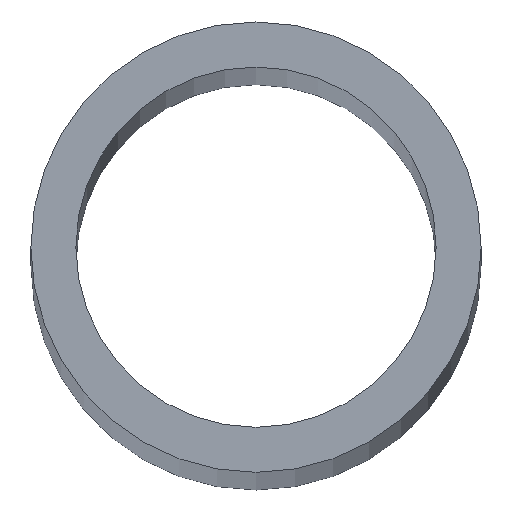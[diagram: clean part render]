
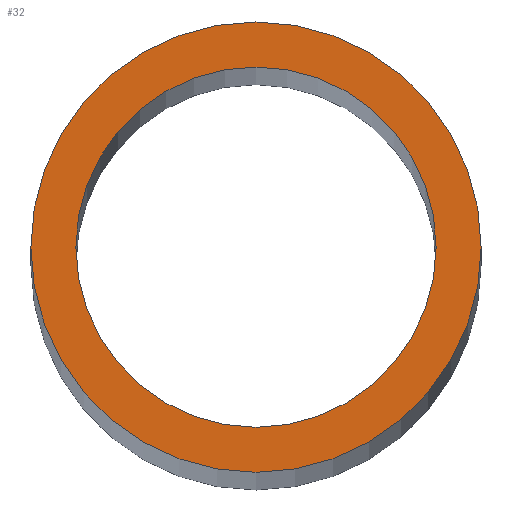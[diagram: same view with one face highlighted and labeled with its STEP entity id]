
A CAD part, top view. The second image highlights one B-rep face of the part: STEP entity #32.
In plain terms, the highlighted planar face has unit normal (0, 0, 1).
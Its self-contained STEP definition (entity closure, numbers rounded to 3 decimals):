
#32 = ADVANCED_FACE( '', ( #61, #62 ), #63, .F. );
#61 = FACE_BOUND( '', #84, .T. );
#62 = FACE_OUTER_BOUND( '', #85, .T. );
#63 = PLANE( '', #86 );
#84 = EDGE_LOOP( '', ( #105 ) );
#85 = EDGE_LOOP( '', ( #106 ) );
#86 = AXIS2_PLACEMENT_3D( '', #107, #108, #109 );
#105 = ORIENTED_EDGE( '', *, *, #120, .T. );
#106 = ORIENTED_EDGE( '', *, *, #122, .F. );
#107 = CARTESIAN_POINT( '', ( 0., 0., 450. ) );
#108 = DIRECTION( '', ( 0., 0., -1. ) );
#109 = DIRECTION( '', ( -1., 0., 0. ) );
#120 = EDGE_CURVE( '', #130, #130, #131, .T. );
#122 = EDGE_CURVE( '', #133, #133, #134, .T. );
#130 = VERTEX_POINT( '', #142 );
#131 = CIRCLE( '', #143, 8. );
#133 = VERTEX_POINT( '', #145 );
#134 = CIRCLE( '', #146, 10. );
#142 = CARTESIAN_POINT( '', ( 8., 0., 450. ) );
#143 = AXIS2_PLACEMENT_3D( '', #154, #155, #156 );
#145 = CARTESIAN_POINT( '', ( 10., 0., 450. ) );
#146 = AXIS2_PLACEMENT_3D( '', #157, #158, #159 );
#154 = CARTESIAN_POINT( '', ( 0., 0., 450. ) );
#155 = DIRECTION( '', ( 0., 0., -1. ) );
#156 = DIRECTION( '', ( 1., 0., 0. ) );
#157 = CARTESIAN_POINT( '', ( 0., 0., 450. ) );
#158 = DIRECTION( '', ( 0., 0., -1. ) );
#159 = DIRECTION( '', ( 1., 0., 0. ) );
